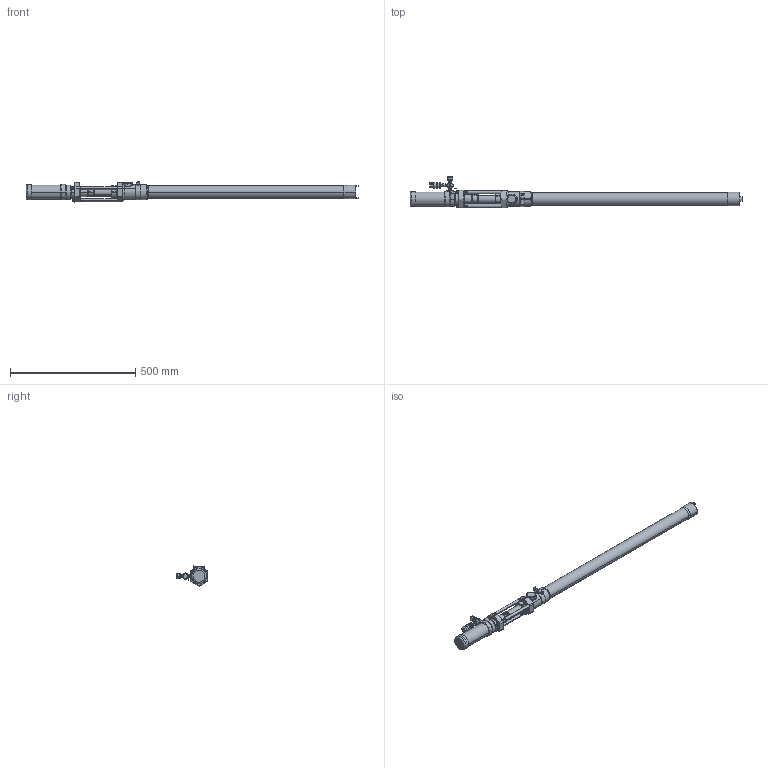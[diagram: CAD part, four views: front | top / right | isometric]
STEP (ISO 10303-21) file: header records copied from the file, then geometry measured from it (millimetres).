
FILE_DESCRIPTION((''),'2;1');
FILE_NAME('226941-EN-ZAF_PRT','2022-02-21T15:25:19',('qtmwp1'),(''),'CREO PARAMETRIC BY PTC INC, 2021072','CREO PARAMETRIC BY PTC INC, 2021072','');
FILE_SCHEMA(('CONFIG_CONTROL_DESIGN'));
Length unit declared in the file: inch
Products named in the file (1): 226941-EN-ZAF_PRT
Bounding box: 1326.52 x 125 x 80.04 mm (x, y, z)
Surface area: 339371.6 mm2 (no closed solid volume)
Topology: 0 solids, 77 shells, 289 faces, 884 edges, 639 vertices
Faces by surface type: cylinder 119, plane 100, cone 48, torus 15, bspline 5, sphere 2
Entity records: 10842 total; most frequent: CARTESIAN_POINT 3103, DIRECTION 1724, ORIENTED_EDGE 1328, EDGE_CURVE 884, AXIS2_PLACEMENT_3D 670, VERTEX_POINT 639, CIRCLE 386, VECTOR 384
